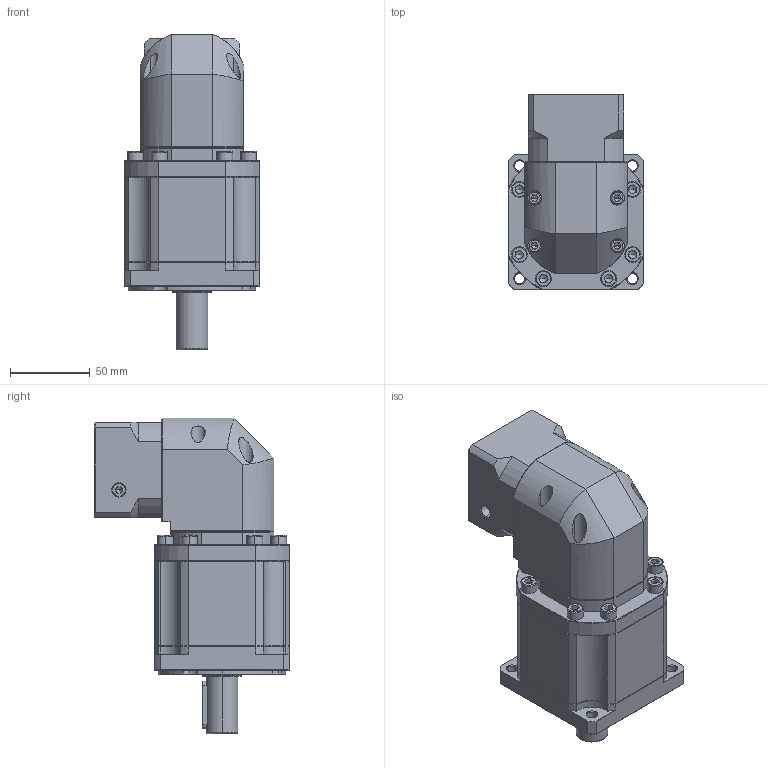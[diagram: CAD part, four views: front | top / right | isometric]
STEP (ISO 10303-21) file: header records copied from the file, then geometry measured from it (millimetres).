
FILE_DESCRIPTION (( 'STEP AP214' ), '1' );
FILE_NAME ('ZBR090-D20-L3-P2-14-50-70-M4.step', '2023-08-19T03:56:28', ( '' ), ( '' ), 'SwSTEP 2.0', 'SolidWorks 2016', '' );
FILE_SCHEMA (( 'AUTOMOTIVE_DESIGN' ));
Length unit declared in the file: millimetre
Products named in the file (1): ZBR090-D20-L3-P2-14-50-70-M4
Bounding box: 85 x 122.7 x 198 mm (x, y, z)
Volume: 920960 mm3; surface area: 104998.3 mm2
Topology: 5 solids, 5 shells, 2430 faces, 6432 edges, 4104 vertices
Faces by surface type: plane 1178, bspline 438, cylinder 437, cone 369, torus 8
Entity records: 127479 total; most frequent: CARTESIAN_POINT 43948, ORIENTED_EDGE 12772, DIRECTION 10236, EDGE_CURVE 6386, VERTEX_POINT 4104, LINE 4014, VECTOR 4014, AXIS2_PLACEMENT_3D 3111
